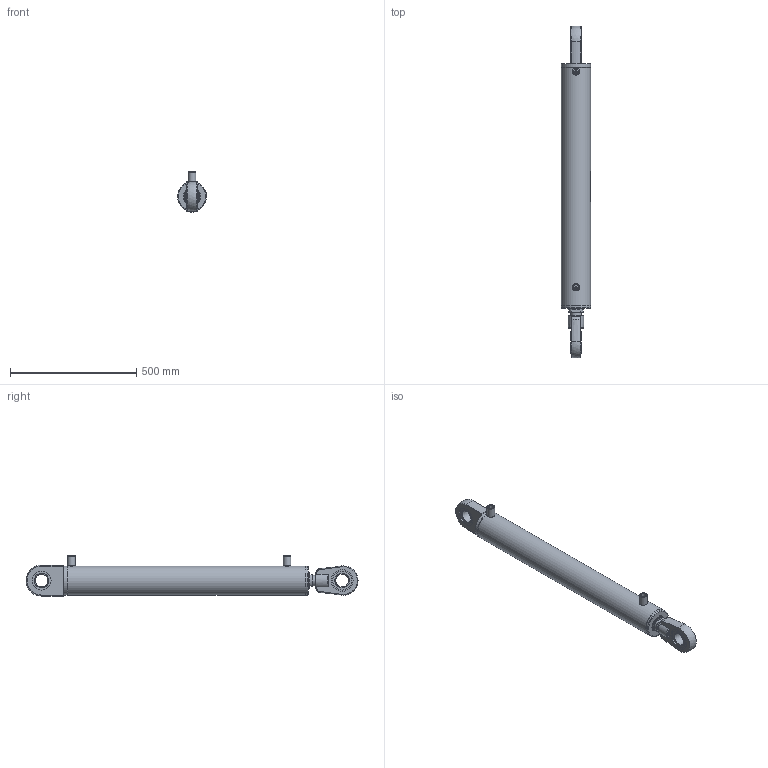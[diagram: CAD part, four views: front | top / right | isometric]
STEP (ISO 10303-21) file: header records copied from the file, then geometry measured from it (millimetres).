
FILE_DESCRIPTION(/* description */ (''),/* implementation_level */ '2;1');
FILE_NAME(/* name */ 'HC_A_100_60_800_AMB_WEB.step',/* time_stamp */ '2023-07-31T15:44:46+03:00',/* author */ (''),/* organization */ (''),/* preprocessor_version */ 'ST-DEVELOPER v20',/* originating_system */ 'Autodesk Translation Framework v12.9.0.99',/* authorisation */ '');
FILE_SCHEMA (('AUTOMOTIVE_DESIGN { 1 0 10303 214 3 1 1 }'));
Length unit declared in the file: millimetre
Products named in the file (20): TRACE_PARTS_MONTAJ; TAK_100_115; TAK_100_115_1; Ø100 x Ø115 _H_BORU; 100X115_H_BORU; Ø60_K_MİL; 60_K_MİL; TDK_100_060; TDK_80_45; K33-060_3; K3-060_3; K06-60X70X5_5X7 (K06_060_5); KO-90X5; Bileşen1; RMK_50; RMV_50; dgihl_50_do; Manşon_1_2; Manşon_1_2_1; MANŞON_1/2
Assembly tree (20 placements, depth 4):
  TRACE_PARTS_MONTAJ
    TAK_100_115
      TAK_100_115_1
    Ø100 x Ø115 _H_BORU
      100X115_H_BORU
    Ø60_K_MİL
      60_K_MİL
    TDK_100_060
      TDK_80_45
      K33-060_3
        K3-060_3
      K06-60X70X5_5X7 (K06_060_5)
      KO-90X5
        Bileşen1
    RMK_50
    RMV_50
      dgihl_50_do
    Manşon_1_2
      MANŞON_1/2
    Manşon_1_2_1
      MANŞON_1/2
Bounding box: 115 x 1313.16 x 159 mm (x, y, z)
Volume: 4702307.9 mm3; surface area: 933644.4 mm2
Topology: 11 solids, 11 shells, 781 faces, 2039 edges, 1349 vertices
Faces by surface type: bspline 398, plane 235, cylinder 74, cone 48, torus 18, sphere 8
Full cylindrical faces by diameter (mm): 8 x2, 19 x2, 30 x3, 41.822 x1, 43.376 x1, 44.85 x1, 50 x3, 60 x3, 60.948 x2, 61 x1, 61.6 x1, 62.6 x1, 69.408 x1, 69.425 x1, 70 x1, 70.6 x1, 75 x4, 86 x2, 90 x1, 98 x1, 99 x2, 100 x2, 101 x1, 103.022 x1, 104.822 x1, 115 x3
Entity records: 37149 total; most frequent: CARTESIAN_POINT 20171, ORIENTED_EDGE 4034, DIRECTION 2289, EDGE_CURVE 2017, VERTEX_POINT 1339, EDGE_LOOP 868, B_SPLINE_CURVE_WITH_KNOTS 856, LINE 855
